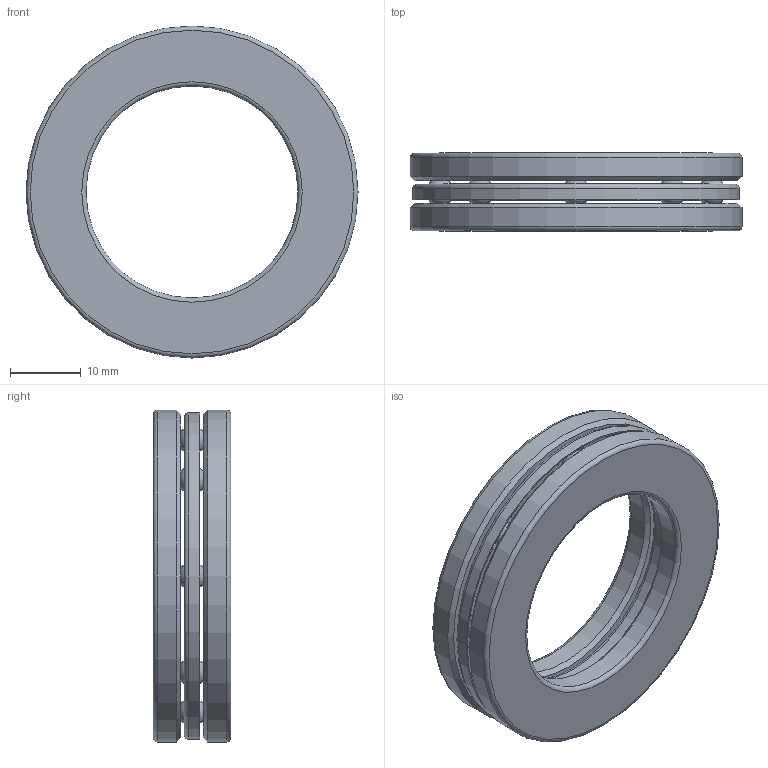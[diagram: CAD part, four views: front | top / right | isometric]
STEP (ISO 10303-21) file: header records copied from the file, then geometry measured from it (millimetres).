
FILE_DESCRIPTION(/* description */ (''),/* implementation_level */ '2;1');
FILE_NAME(/* name */ 'D:\moje\parametrické\511--\511--_\51106.stp',/* time_stamp */ '2016-08-17T07:19:15+02:00',/* author */ ('OUBALASKO'),/* organization */ (''),/* preprocessor_version */ 'ST-DEVELOPER v15.6',/* originating_system */ 'Autodesk Inventor 2015',/* authorisation */ '');
FILE_SCHEMA (('AUTOMOTIVE_DESIGN { 1 0 10303 214 3 1 1 }'));
Length unit declared in the file: millimetre
Products named in the file (7): 51106-HK; 51106-TK; 51106-ball; 51106-cage01; 51106-cage02; 51106-cage; 51106
Assembly tree (13 placements, depth 3):
  51106
    51106-HK
    51106-TK
    51106-ball  x8
    51106-cage
      51106-cage01
      51106-cage02
Bounding box: 47 x 11 x 47 mm (x, y, z)
Volume: 7837.9 mm3; surface area: 8260.1 mm2
Topology: 11 solids, 11 shells, 48 faces, 94 edges, 64 vertices
Faces by surface type: sphere 16, plane 10, torus 10, cylinder 8, cone 4
Full cylindrical faces by diameter (mm): 30 x1, 32 x1, 32.799 x1, 33.188 x1, 45.812 x1, 46.201 x1, 47 x2
Entity records: 1155 total; most frequent: DIRECTION 220, CARTESIAN_POINT 160, AXIS2_PLACEMENT_3D 110, ORIENTED_EDGE 98, EDGE_LOOP 97, FACE_BOUND 56, VERTEX_POINT 50, CIRCLE 49
